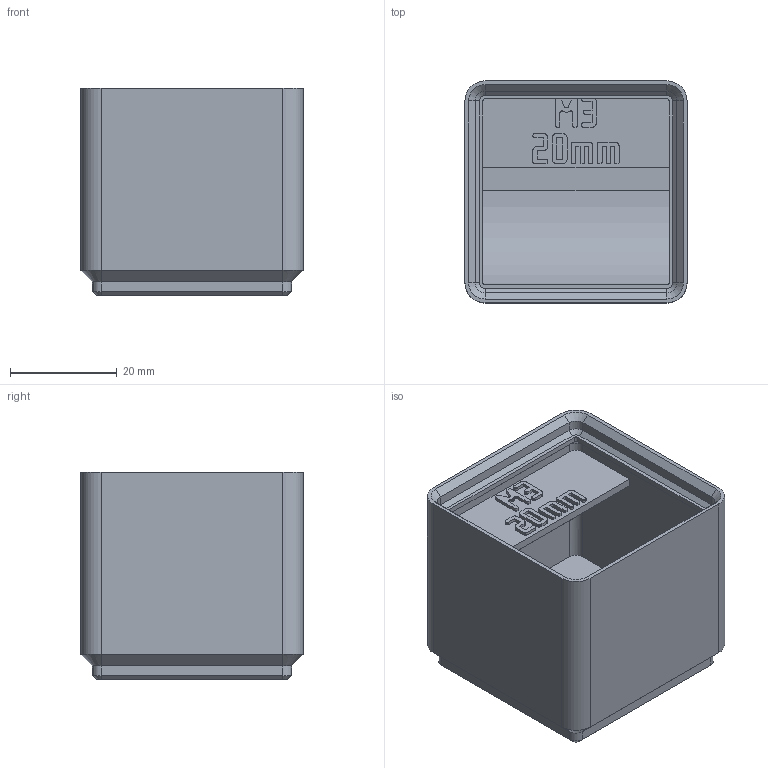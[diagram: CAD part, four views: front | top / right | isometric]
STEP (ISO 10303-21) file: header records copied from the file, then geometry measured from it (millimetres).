
FILE_DESCRIPTION(('Open CASCADE Model'),'2;1');
FILE_NAME('Open CASCADE Shape Model','2026-11-03T10:23:47',('Author'),( 'Open CASCADE'),'Open CASCADE STEP processor 8.0','build123d', 'Unknown');
FILE_SCHEMA(('AUTOMOTIVE_DESIGN { 1 0 10303 214 1 1 1 1 }'));
Length unit declared in the file: millimetre
Products named in the file (1): COMPOUND
Bounding box: 41.5 x 41.5 x 38.8 mm (x, y, z)
Volume: 28178.2 mm3; surface area: 14249 mm2
Topology: 1 solids, 1 shells, 678 faces, 1945 edges, 1278 vertices
Faces by surface type: plane 635, cylinder 23, cone 20
Entity records: 45798 total; most frequent: CARTESIAN_POINT 9394, DIRECTION 5867, LINE 4381, VECTOR 4381, ORIENTED_EDGE 3890, PCURVE 3890, DEFINITIONAL_REPRESENTATION 3890, EDGE_CURVE 1945
